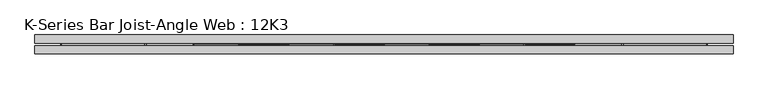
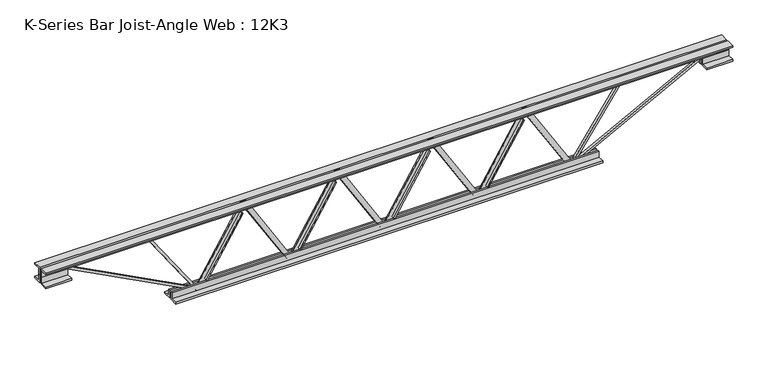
"""IFC4 building model written with IfcOpenShell, lengths in millimetres: beam geometry, K-Series Bar Joist-Angle Web : 12K3."""

from ifc_helpers import new_model, si_unit, frame, origin, place, context, project, spatial, polyline, outline, extrude, faceted_brep, source, transform, mapped, element, save


def k_series_bar_joist_angle_web_12k3_9aaf8e6d(model_context):
    return source(origin(), model_context, "Body", "SolidModel", [
        extrude(outline(polyline([(-4.7625, 4.7625), (-4.7625, 0.0), (-17.4625, 0.0), (-17.4625, 4.7625), (-4.7625, 4.7625)])), frame((333.3117694, 0.0, -114.3), z_axis=(-0.520812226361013, 0.0, 0.8536712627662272), x_axis=(0.0, -1.0, 0.0)), (0.0, 0.0, 1.0), 267.7845793),
        extrude(outline(polyline([(-149.225, 366.315625), (-130.175, 366.315625), (-130.175, 365.312254), (149.225, 194.8544415), (149.225, 176.8078125), (130.175, 176.8078125), (130.175, 184.1611835), (-149.225, 354.618996), (-149.225, 366.315625)])), frame((0.0, 0.0, 0.0), z_axis=(0.0, 1.0, 0.0), x_axis=(0.0, 0.0, 1.0)), (0.0, 0.0, 1.0), 4.7625),
        faceted_brep([(0.0, 0.0, -130.175), (0.0, 0.0, -149.225), (0.0, -4.7625, -149.225), (0.0, -4.7625, -130.175), (1.003371, 0.0, -130.175), (171.4611835, 0.0, 149.225), (189.5078125, 0.0, 149.225), (189.5078125, 0.0, 130.175), (182.1544415, 0.0, 130.175), (11.696629, 0.0, -149.225), (11.696629, -4.7625, -149.225), (33.0038556, -4.7625, -114.3), (28.9382462, -4.7625, -111.8196318), (168.4037291, -4.7625, 116.7803682), (172.4693385, -4.7625, 114.3), (182.1544415, -4.7625, 130.175), (189.5078125, -4.7625, 130.175), (189.5078125, -4.7625, 149.225), (171.4611835, -4.7625, 149.225), (1.003371, -4.7625, -130.175), (172.4693385, -17.4625, 114.3), (33.0038556, -17.4625, -114.3), (28.9382462, -17.4625, -111.8196318), (168.4037291, -17.4625, 116.7803682)], [[[0, 1, 2, 3]], [[1, 0, 4, 5, 6, 7, 8, 9]], [[2, 1, 9, 10]], [[3, 2, 10, 11, 12, 13, 14, 15, 16, 17, 18, 19]], [[0, 3, 19, 4]], [[9, 8, 15, 14, 20, 21, 11, 10]], [[5, 4, 19, 18]], [[7, 6, 17, 16]], [[8, 7, 16, 15]], [[6, 5, 18, 17]], [[21, 22, 12, 11]], [[20, 14, 13, 23]], [[22, 21, 20, 23]], [[12, 22, 23, 13]]]),
        extrude(outline(polyline([(-4.7625, 4.7625), (-4.7625, 0.0), (-17.4625, 0.0), (-17.4625, 4.7625), (-4.7625, 4.7625)])), frame((-33.0038556, 0.0, -114.3), z_axis=(-0.520812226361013, 0.0, 0.8536712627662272), x_axis=(0.0, -1.0, 0.0)), (0.0, 0.0, 1.0), 267.7845793),
        extrude(outline(polyline([(-149.225, 0.0), (-130.175, 0.0), (-130.175, -1.003371), (149.225, -171.4611835), (149.225, -189.5078125), (130.175, -189.5078125), (130.175, -182.1544415), (-149.225, -11.696629), (-149.225, 0.0)])), frame((0.0, 0.0, 0.0), z_axis=(0.0, 1.0, 0.0), x_axis=(0.0, 0.0, 1.0)), (0.0, 0.0, 1.0), 4.7625),
        faceted_brep([(-366.315625, 0.0, -130.175), (-366.315625, 0.0, -149.225), (-366.315625, -4.7625, -149.225), (-366.315625, -4.7625, -130.175), (-365.312254, 0.0, -130.175), (-194.8544415, 0.0, 149.225), (-176.8078125, 0.0, 149.225), (-176.8078125, 0.0, 130.175), (-184.1611835, 0.0, 130.175), (-354.618996, 0.0, -149.225), (-354.618996, -4.7625, -149.225), (-333.3117694, -4.7625, -114.3), (-337.3773788, -4.7625, -111.8196318), (-197.9118959, -4.7625, 116.7803682), (-193.8462865, -4.7625, 114.3), (-184.1611835, -4.7625, 130.175), (-176.8078125, -4.7625, 130.175), (-176.8078125, -4.7625, 149.225), (-194.8544415, -4.7625, 149.225), (-365.312254, -4.7625, -130.175), (-193.8462865, -17.4625, 114.3), (-333.3117694, -17.4625, -114.3), (-337.3773788, -17.4625, -111.8196318), (-197.9118959, -17.4625, 116.7803682)], [[[0, 1, 2, 3]], [[1, 0, 4, 5, 6, 7, 8, 9]], [[2, 1, 9, 10]], [[3, 2, 10, 11, 12, 13, 14, 15, 16, 17, 18, 19]], [[0, 3, 19, 4]], [[9, 8, 15, 14, 20, 21, 11, 10]], [[5, 4, 19, 18]], [[7, 6, 17, 16]], [[8, 7, 16, 15]], [[6, 5, 18, 17]], [[21, 22, 12, 11]], [[20, 14, 13, 23]], [[22, 21, 20, 23]], [[12, 22, 23, 13]]]),
        extrude(outline(polyline([(-4.7625, 4.7625), (-4.7625, 0.0), (-17.4625, 0.0), (-17.4625, 4.7625), (-4.7625, 4.7625)])), frame((699.6273944, 0.0, -114.3), z_axis=(-0.520812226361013, 0.0, 0.8536712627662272), x_axis=(0.0, -1.0, 0.0)), (0.0, 0.0, 1.0), 267.7845793),
        extrude(outline(polyline([(-149.225, 732.63125), (-130.175, 732.63125), (-130.175, 731.627879), (149.225, 561.1700665), (149.225, 543.1234375), (130.175, 543.1234375), (130.175, 550.4768085), (-149.225, 720.934621), (-149.225, 732.63125)])), frame((0.0, 0.0, 0.0), z_axis=(0.0, 1.0, 0.0), x_axis=(0.0, 0.0, 1.0)), (0.0, 0.0, 1.0), 4.7625),
        faceted_brep([(366.315625, 0.0, -130.175), (366.315625, 0.0, -149.225), (366.315625, -4.7625, -149.225), (366.315625, -4.7625, -130.175), (367.318996, 0.0, -130.175), (537.7768085, 0.0, 149.225), (555.8234375, 0.0, 149.225), (555.8234375, 0.0, 130.175), (548.4700665, 0.0, 130.175), (378.012254, 0.0, -149.225), (378.012254, -4.7625, -149.225), (399.3194806, -4.7625, -114.3), (395.2538712, -4.7625, -111.8196318), (534.7193541, -4.7625, 116.7803682), (538.7849635, -4.7625, 114.3), (548.4700665, -4.7625, 130.175), (555.8234375, -4.7625, 130.175), (555.8234375, -4.7625, 149.225), (537.7768085, -4.7625, 149.225), (367.318996, -4.7625, -130.175), (538.7849635, -17.4625, 114.3), (399.3194806, -17.4625, -114.3), (395.2538712, -17.4625, -111.8196318), (534.7193541, -17.4625, 116.7803682)], [[[0, 1, 2, 3]], [[1, 0, 4, 5, 6, 7, 8, 9]], [[2, 1, 9, 10]], [[3, 2, 10, 11, 12, 13, 14, 15, 16, 17, 18, 19]], [[0, 3, 19, 4]], [[9, 8, 15, 14, 20, 21, 11, 10]], [[5, 4, 19, 18]], [[7, 6, 17, 16]], [[8, 7, 16, 15]], [[6, 5, 18, 17]], [[21, 22, 12, 11]], [[20, 14, 13, 23]], [[22, 21, 20, 23]], [[12, 22, 23, 13]]]),
        extrude(outline(polyline([(-4.7625, 4.7625), (-4.7625, 0.0), (-17.4625, 0.0), (-17.4625, 4.7625), (-4.7625, 4.7625)])), frame((-399.3194806, 0.0, -114.3), z_axis=(-0.520812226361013, 0.0, 0.8536712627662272), x_axis=(0.0, -1.0, 0.0)), (0.0, 0.0, 1.0), 267.7845793),
        extrude(outline(polyline([(-149.225, -366.315625), (-130.175, -366.315625), (-130.175, -367.318996), (149.225, -537.7768085), (149.225, -555.8234375), (130.175, -555.8234375), (130.175, -548.4700665), (-149.225, -378.012254), (-149.225, -366.315625)])), frame((0.0, 0.0, 0.0), z_axis=(0.0, 1.0, 0.0), x_axis=(0.0, 0.0, 1.0)), (0.0, 0.0, 1.0), 4.7625),
        faceted_brep([(-732.63125, 0.0, -130.175), (-732.63125, 0.0, -149.225), (-732.63125, -4.7625, -149.225), (-732.63125, -4.7625, -130.175), (-731.627879, 0.0, -130.175), (-561.1700665, 0.0, 149.225), (-543.1234375, 0.0, 149.225), (-543.1234375, 0.0, 130.175), (-550.4768085, 0.0, 130.175), (-720.934621, 0.0, -149.225), (-720.934621, -4.7625, -149.225), (-699.6273944, -4.7625, -114.3), (-703.6930038, -4.7625, -111.8196318), (-564.2275209, -4.7625, 116.7803682), (-560.1619115, -4.7625, 114.3), (-550.4768085, -4.7625, 130.175), (-543.1234375, -4.7625, 130.175), (-543.1234375, -4.7625, 149.225), (-561.1700665, -4.7625, 149.225), (-731.627879, -4.7625, -130.175), (-560.1619115, -17.4625, 114.3), (-699.6273944, -17.4625, -114.3), (-703.6930038, -17.4625, -111.8196318), (-564.2275209, -17.4625, 116.7803682)], [[[0, 1, 2, 3]], [[1, 0, 4, 5, 6, 7, 8, 9]], [[2, 1, 9, 10]], [[3, 2, 10, 11, 12, 13, 14, 15, 16, 17, 18, 19]], [[0, 3, 19, 4]], [[9, 8, 15, 14, 20, 21, 11, 10]], [[5, 4, 19, 18]], [[7, 6, 17, 16]], [[8, 7, 16, 15]], [[6, 5, 18, 17]], [[21, 22, 12, 11]], [[20, 14, 13, 23]], [[22, 21, 20, 23]], [[12, 22, 23, 13]]]),
        extrude(outline(polyline([(4.7625, 152.4), (36.5125, 152.4), (36.5125, 146.05), (11.1125, 146.05), (11.1125, 120.65), (4.7625, 120.65), (4.7625, 152.4)])), frame((-1342.23125, 0.0, 0.0), z_axis=(1.0, 0.0, 0.0), x_axis=(0.0, 1.0, 0.0)), (0.0, 0.0, 1.0), 2684.4625),
        extrude(outline(polyline([(-4.7625, 152.4), (-4.7625, 120.65), (-11.1125, 120.65), (-11.1125, 146.05), (-36.5125, 146.05), (-36.5125, 152.4), (-4.7625, 152.4)])), frame((-1342.23125, 0.0, 0.0), z_axis=(1.0, 0.0, 0.0), x_axis=(0.0, 1.0, 0.0)), (0.0, 0.0, 1.0), 2684.4625),
        extrude(outline(polyline([(-4.7625, 88.9), (-36.5125, 88.9), (-36.5125, 95.25), (-11.1125, 95.25), (-11.1125, 120.65), (-4.7625, 120.65), (-4.7625, 88.9)])), frame((-1342.23125, 0.0, 0.0), z_axis=(1.0, 0.0, 0.0), x_axis=(0.0, 1.0, 0.0)), (0.0, 0.0, 1.0), 101.6),
        extrude(outline(polyline([(36.5125, 88.9), (4.7625, 88.9), (4.7625, 120.65), (11.1125, 120.65), (11.1125, 95.25), (36.5125, 95.25), (36.5125, 88.9)])), frame((-1342.23125, 0.0, 0.0), z_axis=(1.0, 0.0, 0.0), x_axis=(0.0, 1.0, 0.0)), (0.0, 0.0, 1.0), 101.6),
        extrude(outline(polyline([(4.7625, 88.9), (4.7625, 120.65), (11.1125, 120.65), (11.1125, 95.25), (36.5125, 95.25), (36.5125, 88.9), (4.7625, 88.9)])), frame((1240.63125, 0.0, 0.0), z_axis=(1.0, 0.0, 0.0), x_axis=(0.0, 1.0, 0.0)), (0.0, 0.0, 1.0), 101.6),
        extrude(outline(polyline([(-4.7625, 88.9), (-36.5125, 88.9), (-36.5125, 95.25), (-11.1125, 95.25), (-11.1125, 120.65), (-4.7625, 120.65), (-4.7625, 88.9)])), frame((1240.63125, 0.0, 0.0), z_axis=(1.0, 0.0, 0.0), x_axis=(0.0, 1.0, 0.0)), (0.0, 0.0, 1.0), 101.6),
        extrude(outline(polyline([(4.7625, -152.4), (4.7625, -120.65), (11.1125, -120.65), (11.1125, -146.05), (36.5125, -146.05), (36.5125, -152.4), (4.7625, -152.4)])), frame((-834.23125, 0.0, 0.0), z_axis=(1.0, 0.0, 0.0), x_axis=(0.0, 1.0, 0.0)), (0.0, 0.0, 1.0), 1668.4625),
        extrude(outline(polyline([(-4.7625, -152.4), (-36.5125, -152.4), (-36.5125, -146.05), (-11.1125, -146.05), (-11.1125, -120.65), (-4.7625, -120.65), (-4.7625, -152.4)])), frame((-834.23125, 0.0, 0.0), z_axis=(1.0, 0.0, 0.0), x_axis=(0.0, 1.0, 0.0)), (0.0, 0.0, 1.0), 1668.4625),
        extrude(outline(polyline([(4.7625, 4.7625), (4.7625, -4.7625), (-4.7625, -4.7625), (-4.7625, 4.7625), (4.7625, 4.7625)])), frame((732.63125, 0.0, -146.05), z_axis=(0.5661122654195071, 0.0, 0.8243281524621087), x_axis=(0.0, -1.0, 0.0)), (0.0, 0.0, 1.0), 323.5362024),
        extrude(outline(polyline([(4.7625, 4.7625), (4.7625, -4.7625), (-4.7625, -4.7625), (-4.7625, 4.7625), (4.7625, 4.7625)])), frame((-732.63125, 0.0, -146.05), z_axis=(-0.5661122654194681, 0.0, 0.8243281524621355), x_axis=(0.0, -1.0, 0.0)), (0.0, 0.0, 1.0), 323.5362024),
        extrude(outline(polyline([(0.0, -9.525), (0.0, 0.0), (573.7533355, 0.0), (573.7533355, -9.525), (0.0, -9.525)])), frame((1242.8450214, -4.7625, 116.4332925), z_axis=(-0.4648338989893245, 0.0, 0.8853979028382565), x_axis=(-0.8853979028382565, 0.0, -0.4648338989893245)), (0.0, 0.0, 1.0), 9.525),
        extrude(outline(polyline([(0.0, -9.525), (0.0, 0.0), (573.7533355, 0.0), (573.7533355, -9.525), (0.0, -9.525)])), frame((-1242.8450214, 4.7625, 116.4332925), z_axis=(0.46483389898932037, 0.0, 0.8853979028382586), x_axis=(0.8853979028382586, 0.0, -0.46483389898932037)), (0.0, 0.0, 1.0), 9.525),
    ])


if __name__ == "__main__":
    model = new_model("IFC4")
    model_context = context("Model", 3, world=origin())
    ifc_project = project(units=[si_unit("LENGTHUNIT", "METRE", prefix="MILLI")], contexts=[model_context])
    site = spatial("IfcSite", under=ifc_project)
    building = spatial("IfcBuilding", under=site)
    placement = place(None, origin())
    k_series_bar_joist_angle_web_12k3_shape = k_series_bar_joist_angle_web_12k3_9aaf8e6d(model_context)
    element("IfcBeam", 1, ObjectType="K-Series Bar Joist-Angle Web : 12K3", at=placement, inside=building, context=model_context, shape_type="MappedRepresentation", body=[
        mapped(k_series_bar_joist_angle_web_12k3_shape, transform((0.0, 0.0, 0.0), x_axis=(1.0, 0.0, 0.0), y_axis=(0.0, 1.0, 0.0), z_axis=(0.0, 0.0, 1.0))),
    ])
    save(model, "model.ifc")
